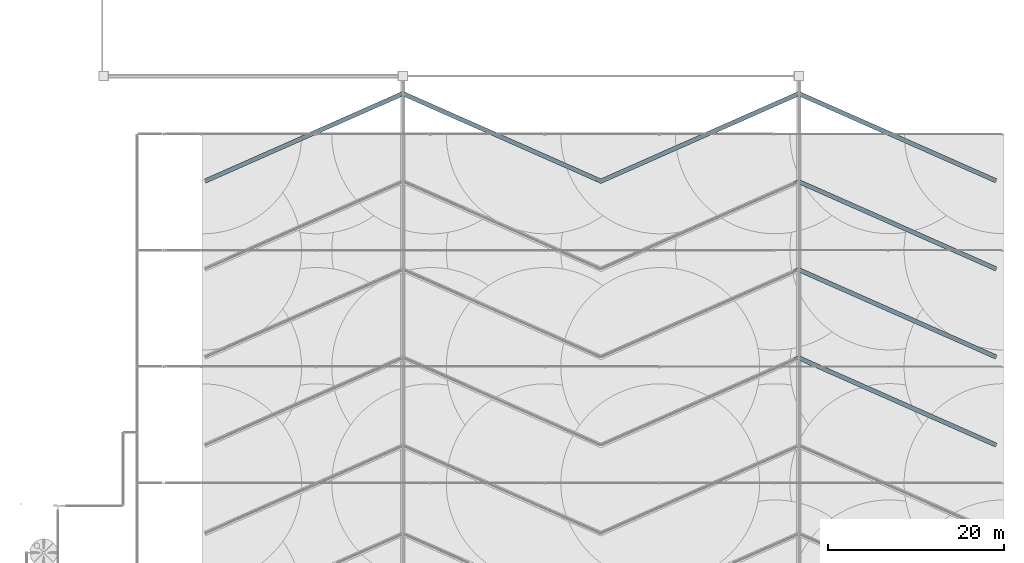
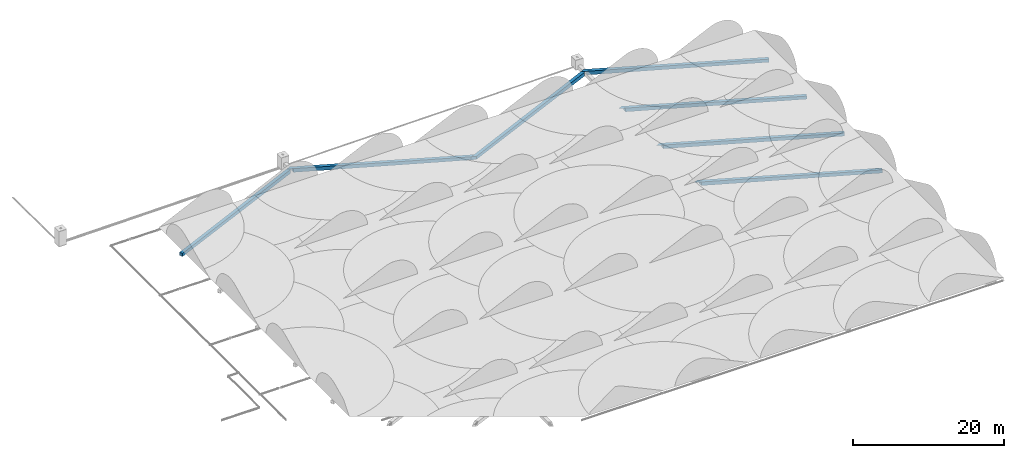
# One storey, part 2 of 166: 7 walls.
"""IFC2X3 building model written with IfcOpenShell, lengths in metres."""

from ifc_helpers import new_model, entity, si_unit, converted_unit, direction, frame, origin, place, context, subcontext, project, spatial, faceted_brep, material, layer, layer_set, type_object, element, save


model = new_model("IFC2X3")

# Units and contexts
model_context = context("Model", 3, precision=1e-05, world=origin(), true_north=direction((6.123233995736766e-17, 1.0)))
body_context = subcontext(model_context, "Body", "Model", "MODEL_VIEW")
ifc_project = project(units=[si_unit("LENGTHUNIT", "METRE"), converted_unit("PLANEANGLEUNIT", "DEGREE", entity("IfcPlaneAngleMeasure", 0.017453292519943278), si_unit("PLANEANGLEUNIT", "RADIAN"), dimensions=[0, 0, 0, 0, 0, 0, 0]), si_unit("AREAUNIT", "SQUARE_METRE")], contexts=[model_context])

# Site, building, storey
site_placement = place(None, origin())
site = spatial("IfcSite", under=ifc_project, at=site_placement, Name="Default", CompositionType="ELEMENT")
building_placement = place(site_placement, origin())
building = spatial("IfcBuilding", under=site, at=building_placement, Name="CASA DE ACOLHIDA PARA IDOSOS", CompositionType="ELEMENT")
storey_placement = place(building_placement, frame((0.0, 0.0, -1.7499999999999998)))
storey = spatial("IfcBuildingStorey", under=building, at=storey_placement, Name="IMPLANTAÇÃO DRENAGEM", CompositionType="ELEMENT", Elevation=-1.7499999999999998)

# Walls
ifc_material = material(Name="Generic")
ifc_layer = layer(ifc_material, 0.49999999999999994)
ifc_layer_set = layer_set([ifc_layer], Name="Parede básica:BRITA - 40 CM")
wall_type = type_object("IfcWallType", Name="Parede básica:BRITA - 40 CM", PredefinedType="STANDARD", material=ifc_layer_set)
wall_1_placement = place(storey_placement, frame((45.3555572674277, 13.953057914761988, -1.243358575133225), z_axis=(0.0, 0.0, 1.0), x_axis=(-0.9145357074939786, 0.404505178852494, 0.0)))
element("IfcWall", 1, at=wall_1_placement, inside=storey, type_object=wall_type, Name="Parede básica:BRITA - 40 CM", ObjectType="Parede básica:BRITA - 40 CM", context=body_context, shape_type="Brep", body=[
    faceted_brep([(0.0, -0.2500000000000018, 0.24335857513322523), (24.3162185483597, -0.24999999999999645, 0.0), (24.316218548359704, -0.24999999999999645, 0.5522163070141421), (24.58958130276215, -0.25, 0.5522163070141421), (24.58958130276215, -0.25, 0.5977158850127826), (0.0, -0.24999999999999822, 0.7433585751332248), (0.0, 0.24999999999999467, 0.24335857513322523), (0.0, 0.25, 0.7433585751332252), (25.04422344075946, 0.25000000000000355, 0.5950230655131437), (25.04422344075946, 0.25, 0.5522163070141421), (24.641790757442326, 0.25, 0.5522163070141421), (24.368428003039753, 0.25, 0.5522163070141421), (24.095065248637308, 0.25000000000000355, 0.5522163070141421), (24.095065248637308, 0.25000000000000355, 0.0022133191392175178), (24.773486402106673, -0.04774741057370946, 0.5522163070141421)], [[[0, 1, 2, 3, 4, 5]], [[6, 7, 8, 9, 10, 11, 12, 13]], [[0, 5, 7, 6]], [[1, 0, 6, 13]], [[5, 4, 8, 7]], [[1, 13, 12, 2]], [[4, 3, 14, 9, 8]], [[9, 14, 3, 2, 12, 11, 10]]]),
])
wall_2_placement = place(storey_placement, frame((45.35555726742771, 23.953057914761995, -1.343358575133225), z_axis=(0.0, 0.0, 1.0), x_axis=(-0.9145357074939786, 0.404505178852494, 0.0)))
element("IfcWall", 2, at=wall_2_placement, inside=storey, type_object=wall_type, Name="Parede básica:BRITA - 40 CM", ObjectType="Parede básica:BRITA - 40 CM", context=body_context, shape_type="Brep", body=[
    faceted_brep([(0.0, -0.25000000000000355, 0.24335857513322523), (24.31621854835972, -0.25000000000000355, 0.0), (24.316218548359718, -0.2499999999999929, 0.5661058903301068), (24.58958130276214, -0.25000000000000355, 0.5661058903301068), (24.589581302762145, -0.25000000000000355, 0.597715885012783), (0.0, -0.25000000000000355, 0.7433585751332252), (0.0, 0.2499999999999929, 0.24335857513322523), (0.0, 0.2499999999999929, 0.7433585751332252), (25.04422344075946, 0.2499999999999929, 0.5950230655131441), (25.044223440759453, 0.2499999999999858, 0.5661058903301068), (24.641790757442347, 0.2499999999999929, 0.5661058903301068), (24.368428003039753, 0.25, 0.5661058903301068), (24.09506524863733, 0.24999999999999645, 0.5661058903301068), (24.09506524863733, 0.24999999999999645, 0.0022133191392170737), (24.773486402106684, -0.04774741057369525, 0.5661058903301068)], [[[0, 1, 2, 3, 4, 5]], [[6, 7, 8, 9, 10, 11, 12, 13]], [[0, 5, 7, 6]], [[1, 0, 6, 13]], [[5, 4, 8, 7]], [[1, 13, 12, 2]], [[4, 3, 14, 9, 8]], [[9, 14, 3, 2, 12, 11, 10]]]),
])
wall_3_placement = place(storey_placement, frame((45.35555726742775, 33.953057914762, -1.443358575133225), z_axis=(0.0, 0.0, 1.0), x_axis=(-0.9145357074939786, 0.404505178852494, 0.0)))
element("IfcWall", 3, at=wall_3_placement, inside=storey, type_object=wall_type, Name="Parede básica:BRITA - 40 CM", ObjectType="Parede básica:BRITA - 40 CM", context=body_context, shape_type="Brep", body=[
    faceted_brep([(0.0, -0.2500000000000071, 0.24335857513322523), (24.316218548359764, -0.2500000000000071, 0.0), (24.316218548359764, -0.2500000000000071, 0.5799954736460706), (24.589581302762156, -0.25, 0.5799954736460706), (24.589581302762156, -0.25, 0.597715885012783), (0.0, -0.2500000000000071, 0.7433585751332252), (0.0, 0.24999999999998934, 0.24335857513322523), (0.0, 0.24999999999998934, 0.7433585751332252), (25.044223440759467, 0.25, 0.5950230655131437), (25.04422344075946, 0.2499999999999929, 0.5799954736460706), (24.641790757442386, 0.2499999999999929, 0.5799954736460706), (24.368428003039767, 0.2499999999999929, 0.5799954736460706), (24.09506524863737, 0.2499999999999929, 0.5799954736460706), (24.09506524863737, 0.2499999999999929, 0.0022133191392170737), (24.773486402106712, -0.04774741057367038, 0.5799954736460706)], [[[0, 1, 2, 3, 4, 5]], [[6, 7, 8, 9, 10, 11, 12, 13]], [[0, 5, 7, 6]], [[1, 0, 6, 13]], [[5, 4, 8, 7]], [[1, 13, 12, 2]], [[4, 3, 14, 9, 8]], [[9, 14, 3, 2, 12, 11, 10]]]),
])
wall_4_placement = place(storey_placement, frame((45.35555726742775, 43.953057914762, -1.543358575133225), z_axis=(0.0, 0.0, 1.0), x_axis=(-0.9145357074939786, 0.404505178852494, 0.0)))
element("IfcWall", 4, at=wall_4_placement, inside=storey, type_object=wall_type, Name="Parede básica:BRITA - 40 CM", ObjectType="Parede básica:BRITA - 40 CM", context=body_context, shape_type="Brep", body=[
    faceted_brep([(0.0, -0.25, 0.24335857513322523), (24.31621854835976, -0.2499999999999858, 0.0), (24.31621854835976, -0.2499999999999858, 0.5938850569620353), (24.589581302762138, -0.2499999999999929, 0.5938850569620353), (24.58958130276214, -0.2499999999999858, 0.597715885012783), (0.0, -0.2499999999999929, 0.7433585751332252), (0.0, 0.2500000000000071, 0.24335857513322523), (0.0, 0.2500000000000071, 0.7433585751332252), (25.044223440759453, 0.2500000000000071, 0.5950230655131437), (25.044223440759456, 0.2500000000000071, 0.5938850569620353), (24.641790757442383, 0.2500000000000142, 0.5938850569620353), (24.368428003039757, 0.2500000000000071, 0.5938850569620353), (24.09506524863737, 0.2500000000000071, 0.5938850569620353), (24.09506524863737, 0.2500000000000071, 0.0022133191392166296), (24.773486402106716, -0.04774741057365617, 0.5938850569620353)], [[[0, 1, 2, 3, 4, 5]], [[6, 7, 8, 9, 10, 11, 12, 13]], [[0, 5, 7, 6]], [[1, 0, 6, 13]], [[5, 4, 8, 7]], [[1, 13, 12, 2]], [[4, 3, 14, 9, 8]], [[9, 14, 3, 2, 12, 11, 10]]]),
])
wall_5_placement = place(storey_placement, frame((-0.023279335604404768, 43.68546732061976, -1.5433649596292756), z_axis=(0.0, 0.0, 1.0), x_axis=(0.9145357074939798, 0.40450517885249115, 0.0)))
element("IfcWall", 5, at=wall_5_placement, inside=storey, type_object=wall_type, Name="Parede básica:BRITA - 40 CM", ObjectType="Parede básica:BRITA - 40 CM", context=body_context, shape_type="Brep", body=[
    faceted_brep([(0.45464213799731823, -0.2499999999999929, 0.24446728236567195), (24.756591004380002, -0.2499999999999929, 0.0022046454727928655), (24.756591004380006, -0.2499999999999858, 0.5938914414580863), (25.029953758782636, -0.2499999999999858, 0.5938914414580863), (25.029953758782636, -0.2499999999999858, 0.5990295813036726), (0.45464213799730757, -0.25, 0.7440173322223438), (0.0, 0.25, 0.24899954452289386), (0.0, 0.2500000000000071, 0.7400303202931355), (0.0, 0.2500000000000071, 0.7466995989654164), (24.575311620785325, 0.2500000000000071, 0.6017118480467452), (24.57531162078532, 0.2500000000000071, 0.5950294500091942), (24.575311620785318, 0.2500000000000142, 0.5938914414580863), (24.977744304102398, 0.2500000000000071, 0.5938914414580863), (24.977744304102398, 0.2500000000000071, 0.0), (24.84604865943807, -0.04774741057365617, 0.5938914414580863)], [[[0, 1, 2, 3, 4, 5]], [[6, 7, 8, 9, 10, 11, 12, 13]], [[1, 0, 6, 13]], [[5, 4, 9, 8]], [[1, 13, 12, 14, 2]], [[4, 3, 14, 11, 10, 9]], [[11, 14, 12]], [[14, 3, 2]], [[0, 5, 8, 7, 6]]]),
])
wall_6_placement = place(storey_placement, frame((0.3925071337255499, 43.95883007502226, -1.5433649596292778), z_axis=(0.0, 0.0, 1.0), x_axis=(-0.9145357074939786, 0.404505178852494, 0.0)))
element("IfcWall", 6, at=wall_6_placement, inside=storey, type_object=wall_type, Name="Parede básica:BRITA - 40 CM", ObjectType="Parede básica:BRITA - 40 CM", context=body_context, shape_type="Brep", body=[
    faceted_brep([(0.0, -0.2499999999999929, 0.24226263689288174), (24.301948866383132, -0.2499999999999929, 0.0), (24.301948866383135, -0.25, 0.5938995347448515), (24.575311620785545, -0.2499999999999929, 0.5938995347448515), (24.575311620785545, -0.2499999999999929, 0.5977248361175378), (0.0, -0.2499999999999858, 0.7427125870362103), (0.4546421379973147, 0.25, 0.23773037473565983), (0.4546421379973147, 0.25, 0.24899954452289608), (0.45464213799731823, 0.2500000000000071, 0.7400303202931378), (25.029953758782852, 0.2500000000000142, 0.5950425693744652), (25.029953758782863, 0.2500000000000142, 0.5938995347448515), (24.62752107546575, 0.25, 0.5938995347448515), (24.354158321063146, 0.2500000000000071, 0.5938995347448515), (24.080795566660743, 0.2500000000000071, 0.5938995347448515), (24.08079556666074, 0.25, 0.0022046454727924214), (24.759216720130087, -0.04774741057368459, 0.5938995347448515)], [[[0, 1, 2, 3, 4, 5]], [[6, 7, 8, 9, 10, 11, 12, 13, 14]], [[1, 0, 6, 14]], [[5, 4, 9, 8]], [[10, 15, 3, 2, 13, 12, 11]], [[1, 14, 13, 2]], [[4, 3, 15, 10, 9]], [[0, 5, 8, 7, 6]]]),
])
wall_7_placement = place(storey_placement, frame((-44.45636657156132, 43.91410124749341, -1.5433649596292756), z_axis=(0.0, 0.0, 1.0), x_axis=(0.9145357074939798, 0.40450517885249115, 0.0)))
element("IfcWall", 7, at=wall_7_placement, inside=storey, type_object=wall_type, Name="Parede básica:BRITA - 40 CM", ObjectType="Parede básica:BRITA - 40 CM", context=body_context, shape_type="Brep", body=[
    faceted_brep([(0.0, -0.25, 0.24336495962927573), (24.191372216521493, -0.2499999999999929, 0.0022046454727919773), (24.191372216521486, -0.2500000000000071, 0.5938995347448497), (24.4647349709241, -0.2499999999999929, 0.5938995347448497), (24.464734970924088, -0.2500000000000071, 0.5990295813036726), (0.0, -0.25, 0.7433649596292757), (0.0, 0.2500000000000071, 0.24336495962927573), (0.0, 0.2500000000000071, 0.7433649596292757), (24.01009283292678, 0.2500000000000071, 0.6017118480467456), (24.01009283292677, 0.25, 0.595042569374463), (24.01009283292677, 0.2500000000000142, 0.5938995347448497), (24.412525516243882, 0.25, 0.5938995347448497), (24.412525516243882, 0.25, 0.0), (24.280829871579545, -0.04774741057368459, 0.5938995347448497)], [[[0, 1, 2, 3, 4, 5]], [[6, 7, 8, 9, 10, 11, 12]], [[0, 5, 7, 6]], [[1, 0, 6, 12]], [[5, 4, 8, 7]], [[10, 13, 11]], [[1, 12, 11, 13, 2]], [[4, 3, 13, 10, 9, 8]], [[13, 3, 2]]]),
])

save(model, "model.ifc")
